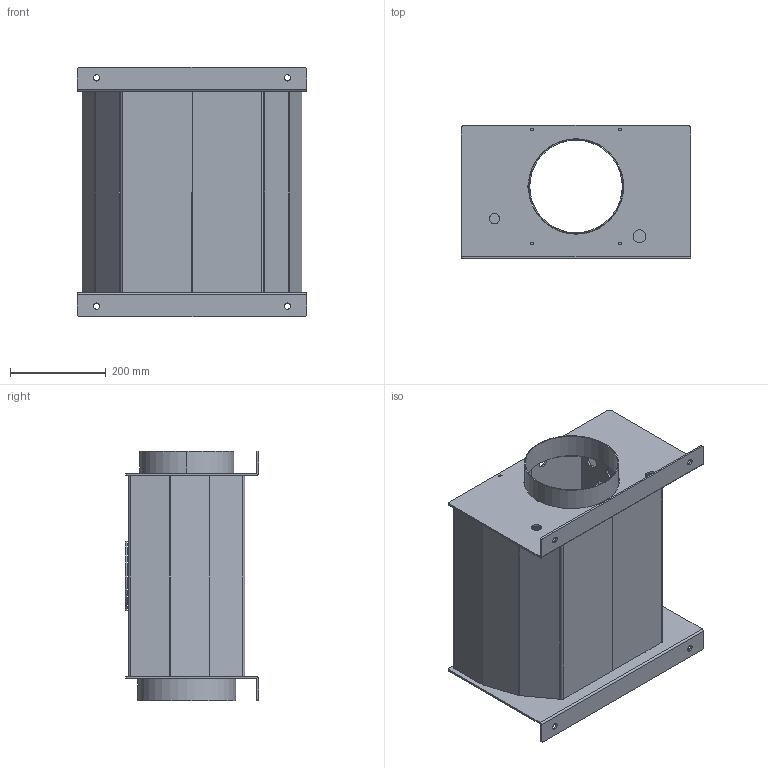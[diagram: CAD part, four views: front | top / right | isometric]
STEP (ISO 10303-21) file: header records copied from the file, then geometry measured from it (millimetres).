
FILE_DESCRIPTION (( 'STEP AP203' ), '1' );
FILE_NAME ('RACS 200.STEP', '2013-03-13T12:06:55', ( 'Utente' ), ( '' ), 'SwSTEP 2.0', 'SolidWorks 2007', '' );
FILE_SCHEMA (( 'CONFIG_CONTROL_DESIGN' ));
Length unit declared in the file: millimetre
Products named in the file (8): RACS 200; Coperchio ispezione RACS 200; Piastra ingresso fumi RACS 200; Piastra tubiera RACS 200; Piastra uscita fumi RACS 200; Uscita fumi RACS 200; Ingresso fumi RACS 200; Testata idraulica RACS 200
Assembly tree (9 placements, depth 2):
  RACS 200
    Ingresso fumi RACS 200
    Piastra uscita fumi RACS 200
    Piastra tubiera RACS 200  x2
    Piastra ingresso fumi RACS 200
    Uscita fumi RACS 200
    Coperchio ispezione RACS 200
    Testata idraulica RACS 200  x2
Bounding box: 478 x 278 x 520 mm (x, y, z)
Volume: 3864413 mm3; surface area: 2069728.2 mm2
Topology: 9 solids, 9 shells, 371 faces, 963 edges, 610 vertices
Faces by surface type: cylinder 187, plane 184
Entity records: 8555 total; most frequent: DIRECTION 1377, CARTESIAN_POINT 1288, ORIENTED_EDGE 1262, EDGE_CURVE 631, AXIS2_PLACEMENT_3D 491, VERTEX_POINT 402, LINE 395, VECTOR 395
